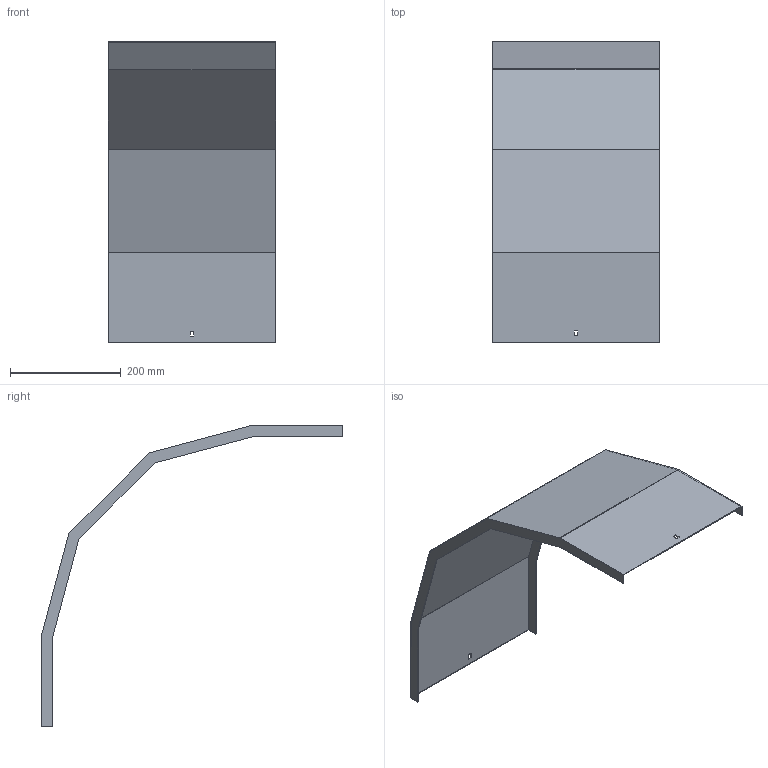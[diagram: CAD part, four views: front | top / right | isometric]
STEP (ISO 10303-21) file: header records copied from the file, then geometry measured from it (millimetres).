
FILE_DESCRIPTION (( 'STEP AP214' ), '1' );
FILE_NAME ('A2_33N3C300.step', '2025-02-21T10:44:23', ( '' ), ( '' ), 'SwSTEP 2.0', 'SolidWorks 2023', '' );
FILE_SCHEMA (( 'AUTOMOTIVE_DESIGN' ));
Length unit declared in the file: millimetre
Products named in the file (1): A2_33N3C300
Bounding box: 303 x 544.46 x 544.46 mm (x, y, z)
Volume: 465979.7 mm3; surface area: 625077.9 mm2
Topology: 1 solids, 1 shells, 34 faces, 96 edges, 64 vertices
Faces by surface type: plane 34
Entity records: 1111 total; most frequent: CARTESIAN_POINT 195, ORIENTED_EDGE 192, DIRECTION 166, EDGE_CURVE 96, LINE 96, VECTOR 96, VERTEX_POINT 64, EDGE_LOOP 38
